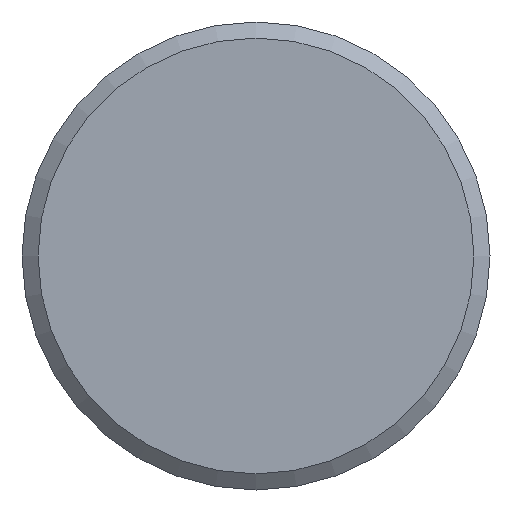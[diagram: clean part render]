
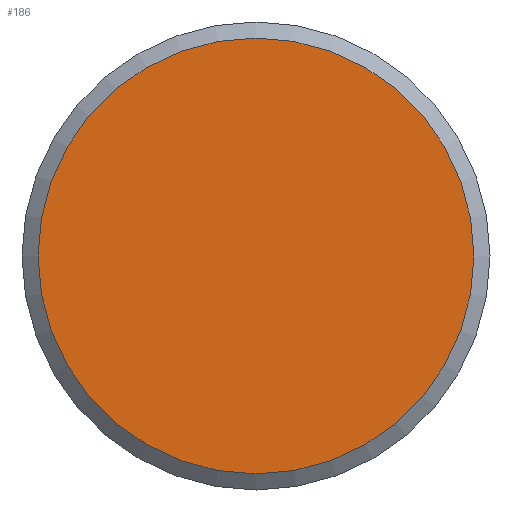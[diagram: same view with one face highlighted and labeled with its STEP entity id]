
A CAD part, front view. The second image highlights one B-rep face of the part: STEP entity #186.
In plain terms, the highlighted planar face has unit normal (0, -1, 0).
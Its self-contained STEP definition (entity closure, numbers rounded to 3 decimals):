
#45=FACE_OUTER_BOUND('',#63,.T.);
#63=EDGE_LOOP('',(#148));
#97=CIRCLE('',#213,14.25);
#114=VERTEX_POINT('',#321);
#131=EDGE_CURVE('',#114,#114,#97,.T.);
#148=ORIENTED_EDGE('',*,*,#131,.F.);
#182=PLANE('',#212);
#186=ADVANCED_FACE('',(#45),#182,.T.);
#212=AXIS2_PLACEMENT_3D('',#320,#249,#250);
#213=AXIS2_PLACEMENT_3D('',#322,#251,#252);
#249=DIRECTION('center_axis',(0.,-1.,0.));
#250=DIRECTION('ref_axis',(0.,0.,-1.));
#251=DIRECTION('center_axis',(0.,1.,0.));
#252=DIRECTION('ref_axis',(-1.,0.,0.));
#320=CARTESIAN_POINT('Origin',(-8.975,0.,0.));
#321=CARTESIAN_POINT('',(-14.25,0.,0.));
#322=CARTESIAN_POINT('Origin',(0.,0.,0.));
